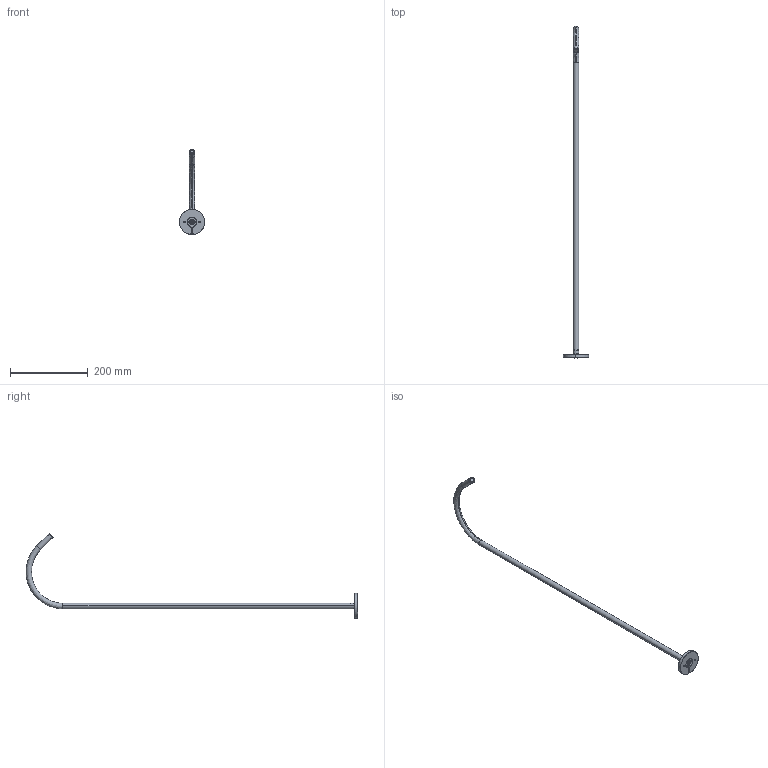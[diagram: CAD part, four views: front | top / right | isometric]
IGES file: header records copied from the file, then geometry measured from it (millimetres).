
Start section: SolidWorks IGES file using analytic representation for surfaces
Global section: file name: C:\Users\LuigiDeFilippisILTI\Downloads\TWIG_Path Way 45 1.IGS; native system: SolidWorks 2016; preprocessor: SolidWorks 2016; author: LuigiDeFilippisILTI; date: 260826.140045; units: millimetre
Bounding box: 65 x 855 x 219.49 mm (x, y, z)
Surface area: 86674.7 mm2 (no closed solid volume)
Topology: 0 solids, 0 shells, 103 faces, 1738 edges, 1738 vertices
Faces by surface type: revolution 71, bspline 32
